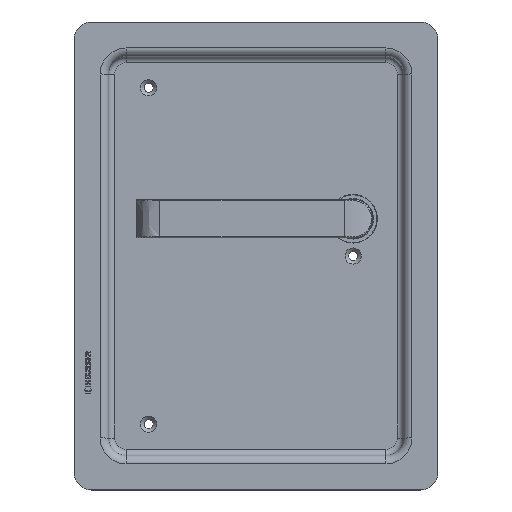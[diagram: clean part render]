
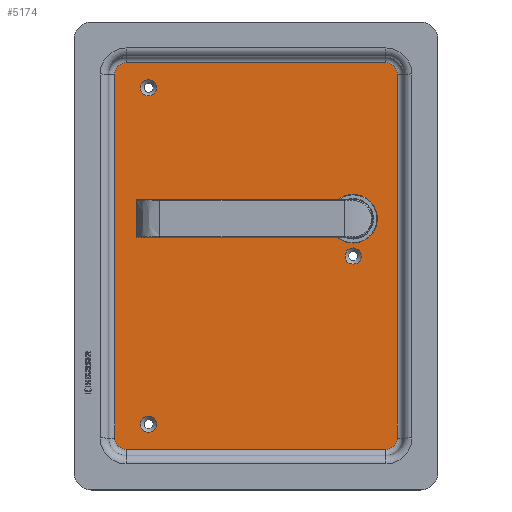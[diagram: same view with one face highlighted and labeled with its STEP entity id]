
A CAD part, top view. The second image highlights one B-rep face of the part: STEP entity #5174.
In plain terms, the highlighted planar face has unit normal (0, 0, 1).
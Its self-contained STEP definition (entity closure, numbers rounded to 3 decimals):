
#299=LINE('',#7296,#691);
#300=LINE('',#7304,#692);
#302=LINE('',#7316,#694);
#305=LINE('',#7328,#697);
#691=VECTOR('',#6066,10.);
#692=VECTOR('',#6077,10.);
#694=VECTOR('',#6091,10.);
#697=VECTOR('',#6106,10.);
#1144=FACE_BOUND('',#1610,.T.);
#1145=FACE_BOUND('',#1611,.T.);
#1146=FACE_BOUND('',#1612,.T.);
#1147=FACE_BOUND('',#1613,.T.);
#1281=FACE_OUTER_BOUND('',#1609,.T.);
#1609=EDGE_LOOP('',(#3587,#3588,#3589,#3590,#3591,#3592,#3593,#3594));
#1610=EDGE_LOOP('',(#3595));
#1611=EDGE_LOOP('',(#3596));
#1612=EDGE_LOOP('',(#3597));
#1613=EDGE_LOOP('',(#3598));
#1931=CIRCLE('',#5493,6.5);
#1934=CIRCLE('',#5498,6.5);
#1937=CIRCLE('',#5503,6.5);
#1941=CIRCLE('',#5509,6.5);
#1986=CIRCLE('',#5598,4.65);
#1987=CIRCLE('',#5600,4.65);
#1988=CIRCLE('',#5602,14.);
#1989=CIRCLE('',#5603,4.65);
#2117=VERTEX_POINT('',#7289);
#2118=VERTEX_POINT('',#7291);
#2119=VERTEX_POINT('',#7295);
#2120=VERTEX_POINT('',#7299);
#2121=VERTEX_POINT('',#7303);
#2123=VERTEX_POINT('',#7309);
#2125=VERTEX_POINT('',#7315);
#2127=VERTEX_POINT('',#7321);
#2179=VERTEX_POINT('',#7507);
#2180=VERTEX_POINT('',#7510);
#2181=VERTEX_POINT('',#7513);
#2182=VERTEX_POINT('',#7515);
#2616=EDGE_CURVE('',#2118,#2117,#1931,.T.);
#2618=EDGE_CURVE('',#2119,#2118,#299,.T.);
#2620=EDGE_CURVE('',#2120,#2119,#1934,.T.);
#2622=EDGE_CURVE('',#2121,#2120,#300,.T.);
#2625=EDGE_CURVE('',#2123,#2121,#1937,.T.);
#2628=EDGE_CURVE('',#2125,#2123,#302,.T.);
#2631=EDGE_CURVE('',#2127,#2125,#1941,.T.);
#2635=EDGE_CURVE('',#2117,#2127,#305,.T.);
#2719=EDGE_CURVE('',#2179,#2179,#1986,.T.);
#2720=EDGE_CURVE('',#2180,#2180,#1987,.T.);
#2721=EDGE_CURVE('',#2181,#2181,#1988,.T.);
#2722=EDGE_CURVE('',#2182,#2182,#1989,.T.);
#3587=ORIENTED_EDGE('',*,*,#2635,.T.);
#3588=ORIENTED_EDGE('',*,*,#2631,.T.);
#3589=ORIENTED_EDGE('',*,*,#2628,.T.);
#3590=ORIENTED_EDGE('',*,*,#2625,.T.);
#3591=ORIENTED_EDGE('',*,*,#2622,.T.);
#3592=ORIENTED_EDGE('',*,*,#2620,.T.);
#3593=ORIENTED_EDGE('',*,*,#2618,.T.);
#3594=ORIENTED_EDGE('',*,*,#2616,.T.);
#3595=ORIENTED_EDGE('',*,*,#2721,.T.);
#3596=ORIENTED_EDGE('',*,*,#2720,.F.);
#3597=ORIENTED_EDGE('',*,*,#2719,.F.);
#3598=ORIENTED_EDGE('',*,*,#2722,.F.);
#4681=PLANE('',#5601);
#5174=ADVANCED_FACE('',(#1281,#1144,#1145,#1146,#1147),#4681,.F.);
#5493=AXIS2_PLACEMENT_3D('',#7292,#6060,#6061);
#5498=AXIS2_PLACEMENT_3D('',#7300,#6071,#6072);
#5503=AXIS2_PLACEMENT_3D('',#7310,#6083,#6084);
#5509=AXIS2_PLACEMENT_3D('',#7322,#6097,#6098);
#5598=AXIS2_PLACEMENT_3D('',#7508,#6316,#6317);
#5600=AXIS2_PLACEMENT_3D('',#7511,#6320,#6321);
#5601=AXIS2_PLACEMENT_3D('',#7512,#6322,#6323);
#5602=AXIS2_PLACEMENT_3D('',#7514,#6324,#6325);
#5603=AXIS2_PLACEMENT_3D('',#7516,#6326,#6327);
#6060=DIRECTION('center_axis',(0.,0.,
1.));
#6061=DIRECTION('ref_axis',(-0.707,-0.707,0.));
#6066=DIRECTION('',(0.,-1.,0.));
#6071=DIRECTION('center_axis',(0.,0.,
1.));
#6072=DIRECTION('ref_axis',(-0.707,0.707,0.));
#6077=DIRECTION('',(-1.,0.,0.));
#6083=DIRECTION('center_axis',(0.,0.,
1.));
#6084=DIRECTION('ref_axis',(0.707,0.707,0.));
#6091=DIRECTION('',(0.,1.,0.));
#6097=DIRECTION('center_axis',(0.,0.,
1.));
#6098=DIRECTION('ref_axis',(0.707,-0.707,0.));
#6106=DIRECTION('',(1.,0.,0.));
#6316=DIRECTION('center_axis',(0.,0.,
1.));
#6317=DIRECTION('ref_axis',(-1.,0.,0.));
#6320=DIRECTION('center_axis',(0.,0.,
1.));
#6321=DIRECTION('ref_axis',(-1.,0.,0.));
#6322=DIRECTION('center_axis',(0.,0.,
-1.));
#6323=DIRECTION('ref_axis',(-1.,0.,0.));
#6324=DIRECTION('center_axis',(0.,0.,
-1.));
#6325=DIRECTION('ref_axis',(0.,1.,0.));
#6326=DIRECTION('center_axis',(0.,0.,
1.));
#6327=DIRECTION('ref_axis',(-1.,0.,0.));
#7289=CARTESIAN_POINT('',(-77.269,-100.155,-5.503));
#7291=CARTESIAN_POINT('',(-83.769,-93.655,-5.503));
#7292=CARTESIAN_POINT('Origin',(-77.269,-93.655,-5.503));
#7295=CARTESIAN_POINT('',(-83.769,116.345,-5.503));
#7296=CARTESIAN_POINT('',(-83.769,63.845,-5.503));
#7299=CARTESIAN_POINT('',(-77.269,122.845,-5.503));
#7300=CARTESIAN_POINT('Origin',(-77.269,116.345,-5.503));
#7303=CARTESIAN_POINT('',(72.731,122.845,-5.503));
#7304=CARTESIAN_POINT('',(35.231,122.845,-5.503));
#7309=CARTESIAN_POINT('',(79.231,116.345,-5.503));
#7310=CARTESIAN_POINT('Origin',(72.731,116.345,-5.503));
#7315=CARTESIAN_POINT('',(79.231,-93.655,-5.503));
#7316=CARTESIAN_POINT('',(79.231,-41.155,-5.503));
#7321=CARTESIAN_POINT('',(72.731,-100.155,-5.503));
#7322=CARTESIAN_POINT('Origin',(72.731,-93.655,-5.503));
#7328=CARTESIAN_POINT('',(-39.769,-100.155,-5.503));
#7507=CARTESIAN_POINT('',(58.381,11.345,-5.503));
#7508=CARTESIAN_POINT('Origin',(53.731,11.345,-5.503));
#7510=CARTESIAN_POINT('',(-59.619,-85.655,-5.503));
#7511=CARTESIAN_POINT('Origin',(-64.269,-85.655,-5.503));
#7512=CARTESIAN_POINT('Origin',(-2.269,11.345,-5.503));
#7513=CARTESIAN_POINT('',(53.731,18.845,-5.503));
#7514=CARTESIAN_POINT('Origin',(53.731,32.845,-5.503));
#7515=CARTESIAN_POINT('',(-59.619,108.345,-5.503));
#7516=CARTESIAN_POINT('Origin',(-64.269,108.345,-5.503));
